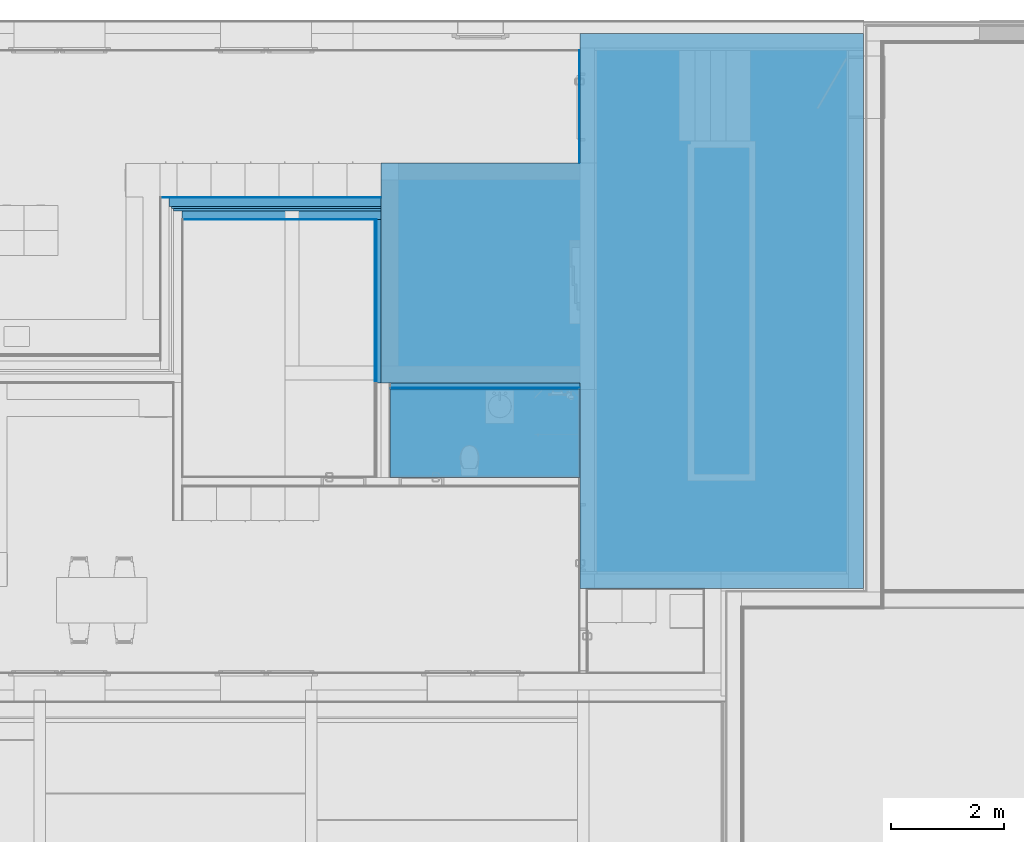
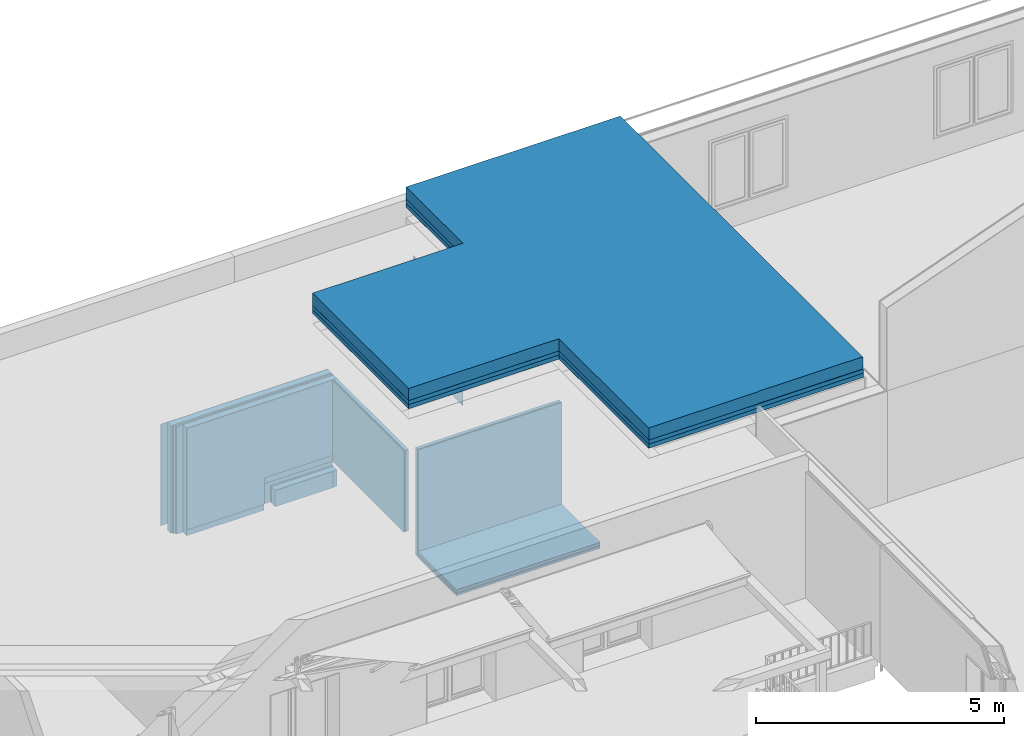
# One storey, part 13 of 36: 24 building element parts, 1 opening, 7 elements without a shape of their own.
"""IFC4 building model written with IfcOpenShell, lengths in millimetres."""

from ifc_helpers import new_model, entity, si_unit, converted_unit, derived_unit, direction, frame, origin_with_axes, place, context, subcontext, project, spatial, polygons, material, type_object, element, aggregate, save


model = new_model("IFC4")

# Units and contexts
model_context = context("Model", 3, precision=0.01, world=origin_with_axes(), true_north=direction((0.0, 1.0)))
body_context = subcontext(model_context, "Body", "Model", "MODEL_VIEW")
ifc_project = project(units=[si_unit("LENGTHUNIT", "METRE", prefix="MILLI"), si_unit("AREAUNIT", "SQUARE_METRE"), si_unit("VOLUMEUNIT", "CUBIC_METRE"), converted_unit("PLANEANGLEUNIT", "DEGREE", entity("IfcPlaneAngleMeasure", 0.0174532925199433), si_unit("PLANEANGLEUNIT", "RADIAN"), dimensions=[0, 0, 0, 0, 0, 0, 0]), converted_unit("TIMEUNIT", "Year", entity("IfcTimeMeasure", 31557600.0), si_unit("TIMEUNIT", "SECOND"), dimensions=[0, 0, 1, 0, 0, 0, 0]), si_unit("MASSUNIT", "GRAM", prefix="KILO"), si_unit("THERMODYNAMICTEMPERATUREUNIT", "DEGREE_CELSIUS"), si_unit("LUMINOUSINTENSITYUNIT", "LUMEN"), si_unit("ENERGYUNIT", "JOULE", prefix="MEGA"), derived_unit("THERMALCONDUCTANCEUNIT", [(si_unit("POWERUNIT", "WATT"), 1), (si_unit("LENGTHUNIT", "METRE"), -1), (si_unit("THERMODYNAMICTEMPERATUREUNIT", "KELVIN"), -1)]), derived_unit("SPECIFICHEATCAPACITYUNIT", [(si_unit("ENERGYUNIT", "JOULE"), 1), (si_unit("MASSUNIT", "GRAM", prefix="KILO"), -1), (si_unit("THERMODYNAMICTEMPERATUREUNIT", "KELVIN"), -1)]), derived_unit("MASSDENSITYUNIT", [(si_unit("MASSUNIT", "GRAM", prefix="KILO"), 1), (si_unit("VOLUMEUNIT", "CUBIC_METRE"), -1)])], contexts=[model_context])

# Site, building, storey
site_placement = place(None, origin_with_axes())
site = spatial("IfcSite", under=ifc_project, at=site_placement, Name="Gelände", CompositionType="ELEMENT")
building_placement = place(site_placement, origin_with_axes())
building = spatial("IfcBuilding", under=site, at=building_placement, Name="Gebäude", CompositionType="ELEMENT")
storey_placement = place(building_placement, frame((0.0, 0.0, 8700.0), z_axis=(0.0, 0.0, 1.0), x_axis=(1.0, 0.0, 0.0)))
storey = spatial("IfcBuildingStorey", under=building, at=storey_placement, Name="Attika", CompositionType="ELEMENT", Elevation=8700.0)

# Wall, building element parts
wall_type_1 = type_object("IfcWallType", Name="Trennwand Typ 03 - verputzt 200", PredefinedType="NOTDEFINED")
wall_1_placement = place(storey_placement, frame((11928.99744477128, 34837.59728131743, 0.0), z_axis=(0.0, 0.0, 1.0), x_axis=(-1.0, 0.0, 0.0)))
wall_1 = element("IfcWall", 1, at=wall_1_placement, inside=storey, type_object=wall_type_1, Name="Wand-014", PredefinedType="NOTDEFINED")
ifc_material_1 = material(Name="Dämmung Innen")
building_element_part_1_placement = place(wall_1_placement, origin_with_axes())
building_element_part_1 = element("IfcBuildingElementPart", 2, at=building_element_part_1_placement, material=ifc_material_1, Name="Dämmung Innen", PredefinedType="NOTDEFINED", context=body_context, shape_type="Tessellation", body=[
    polygons([(3700.000000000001, 149.9999999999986, 2649.999948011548), (0.0, 149.9999999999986, 2649.999948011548), (0.0, 149.999997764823, 0.0), (3700.000000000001, 149.9999998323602, 0.0), (1700.000000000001, 149.9999999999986, 649.9999999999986), (115.0000316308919, 149.9999999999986, 649.9999999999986), (115.0000316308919, 149.9999999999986, 799.999999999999), (1700.000000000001, 149.9999999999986, 799.999999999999), (3700.000000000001, 189.9999999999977, 2649.999948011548), (0.0, 189.9999999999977, 2649.999948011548), (0.0, 190.0000044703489, 649.9999999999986), (0.0, 190.0000044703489, 0.0), (3700.000000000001, 190.0000003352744, 0.0), (1700.000000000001, 190.0000044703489, 649.9999999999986), (115.0000316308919, 190.0000044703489, 649.9999999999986), (115.0000316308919, 190.0000044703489, 799.999999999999), (1700.000000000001, 190.0000044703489, 799.999999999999)], [[[1, 2, 3, 4], [5, 6, 7, 8]], [[9, 10, 2, 1]], [[3, 2, 10, 11, 12]], [[13, 4, 3, 12]], [[9, 1, 4, 13]], [[6, 5, 14, 15]], [[7, 6, 15, 16]], [[8, 7, 16, 17]], [[14, 5, 8, 17]], [[12, 11, 10, 9, 13], [14, 17, 16, 15]]], closed=True),
])
ifc_material_2 = material(Name="Kalkzementputz Aussen")
building_element_part_2_placement = place(wall_1_placement, origin_with_axes())
building_element_part_2 = element("IfcBuildingElementPart", 3, at=building_element_part_2_placement, material=ifc_material_2, Name="Kalkzementputz Aussen", PredefinedType="NOTDEFINED", context=body_context, shape_type="Tessellation", body=[
    polygons([(0.0, 0.0, 150.0000000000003), (0.0, -9.99999999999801, 150.0000000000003), (0.0, -9.99999999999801, 649.9999999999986), (0.0, -9.99999999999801, 2649.999948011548), (0.0, 0.0, 2649.999948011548), (3890.0, -9.99999999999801, 150.0000000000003), (3890.0, 0.0, 150.0000000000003), (3890.0, -9.99999999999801, 2649.999948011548), (3890.0, 0.0, 2649.999948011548)], [[[1, 2, 3, 4, 5]], [[6, 2, 1, 7]], [[2, 6, 8, 4, 3]], [[9, 5, 4, 8]], [[7, 1, 5, 9]], [[6, 7, 9, 8]]], closed=True),
])
ifc_material_3 = material(Name="MW, Backstein")
building_element_part_3_placement = place(wall_1_placement, origin_with_axes())
building_element_part_3 = element("IfcBuildingElementPart", 4, at=building_element_part_3_placement, material=ifc_material_3, Name="MW, Backstein", PredefinedType="NOTDEFINED", context=body_context, shape_type="Tessellation", body=[
    polygons([(0.0, 149.9999999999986, 2649.999948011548), (0.0, 0.0, 2649.999948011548), (3740.0, 0.0, 2649.999948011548), (3740.0, 149.9999999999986, 2649.999948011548), (0.0, -7.450609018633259e-07, 649.9999999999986), (0.0, 149.999997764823, 649.9999999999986), (0.0, 149.999997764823, 0.0), (0.0, -7.450609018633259e-07, 0.0), (3740.0, -4.842348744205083e-08, 0.0), (3740.0, 149.9999998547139, 0.0)], [[[1, 2, 3, 4]], [[5, 2, 1, 6, 7, 8]], [[2, 5, 8, 9, 3]], [[3, 9, 10, 4]], [[6, 1, 4, 10, 7]], [[9, 8, 7, 10]]], closed=True),
])
aggregate(wall_1, [building_element_part_1, building_element_part_2, building_element_part_3])

# Wall, opening, building element part
wall_type_2 = type_object("IfcWallType", Name="Innenwand Typ 10 310", PredefinedType="NOTDEFINED")
wall_2_placement = place(storey_placement, frame((15728.99744477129, 37437.59728131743, 0.0), z_axis=(0.0, 0.0, 1.0), x_axis=(0.0, -1.0, 0.0)))
wall_2 = element("IfcWall", 5, at=wall_2_placement, inside=storey, type_object=wall_type_2, Name="Wand-014", PredefinedType="NOTDEFINED")
opening_placement = place(wall_2_placement, frame((1000.0, 0.0, 0.0), z_axis=(0.0, 0.0, 1.0), x_axis=(1.0, 0.0, 0.0)))
element("IfcOpeningElement", 6, at=opening_placement, cuts=wall_2, Name="Tür-011", context=body_context, identifier="Reference", shape_type="Tessellation", body=[
    polygons([(600.0000000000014, 0.9999999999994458, 2100.0), (600.0000000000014, 0.9999999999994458, 0.0), (-600.0000000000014, 0.9999999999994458, 0.0), (-600.0000000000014, 0.9999999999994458, 2100.0), (600.0000000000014, -310.9999999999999, 2100.0), (600.0000000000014, -310.9999999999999, 0.0), (-600.0000000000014, -310.9999999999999, 0.0), (-600.0000000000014, -310.9999999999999, 2100.0)], [[[1, 2, 3, 4]], [[5, 6, 2, 1]], [[6, 7, 3, 2]], [[7, 8, 4, 3]], [[8, 5, 1, 4]], [[7, 6, 5, 8]]], closed=True),
])
building_element_part_4_placement = place(wall_2_placement, origin_with_axes())
building_element_part_4 = element("IfcBuildingElementPart", 7, at=building_element_part_4_placement, material=ifc_material_2, Name="Kalkzementputz Aussen", PredefinedType="NOTDEFINED", context=body_context, shape_type="Tessellation", body=[
    polygons([(1600.000000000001, -300.0000000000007, 150.0000000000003), (1600.000000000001, -300.0000000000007, 2100.0), (399.9999999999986, -300.0000000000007, 2100.0), (399.9999999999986, -300.0000000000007, 150.0000000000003), (0.0, -300.0000000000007, 150.0000000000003), (0.0, -300.0000113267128, 2649.999948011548), (1989.999891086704, -300.0000113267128, 2649.999948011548), (1990.000000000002, -300.0000000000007, 150.0000000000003), (1600.000000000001, -310.0000000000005, 150.0000000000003), (1600.000000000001, -310.0000000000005, 2100.0), (399.9999999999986, -310.0000000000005, 2100.0), (399.9999999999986, -310.0000000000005, 150.0000000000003), (0.0, -310.0000000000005, 150.0000000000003), (0.0, -310.0000000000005, 2649.999948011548), (1989.999891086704, -310.0000000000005, 2649.999948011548), (1990.000000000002, -310.0000000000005, 150.0000000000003)], [[[1, 2, 3, 4, 5, 6, 7, 8]], [[2, 1, 9, 10]], [[3, 2, 10, 11]], [[4, 3, 11, 12]], [[4, 12, 13, 5]], [[14, 6, 5, 13]], [[7, 6, 14, 15]], [[7, 15, 16, 8]], [[9, 1, 8, 16]], [[10, 9, 16, 15, 14, 13, 12, 11]]], closed=True),
])
aggregate(wall_2, [building_element_part_4])

# Covering, building element parts
covering_type_1 = type_object("IfcCoveringType", Name="Dacheindeckung Typ 02 - Flachdach 502", PredefinedType="NOTDEFINED")
covering_1_placement = place(storey_placement, frame((15428.99744477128, 27947.59728131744, 3650.000000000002), z_axis=(0.0, 0.0, 1.0), x_axis=(1.0, 0.0, 0.0)))
covering_1 = element("IfcCovering", 8, at=covering_1_placement, inside=storey, type_object=covering_type_1, Name="Deckennr.-073", PredefinedType="NOTDEFINED")
ifc_material_4 = material(Name="Abdichtung Bitumen")
building_element_part_5_placement = place(covering_1_placement, origin_with_axes())
building_element_part_5 = element("IfcBuildingElementPart", 9, at=building_element_part_5_placement, material=ifc_material_4, Name="Abdichtung Bitumen", PredefinedType="NOTDEFINED", context=body_context, shape_type="Tessellation", body=[
    polygons([(0.0, 0.0, 200.9999999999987), (4999.999999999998, 0.0, 200.9999999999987), (4999.999999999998, 0.0, 201.9999999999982), (0.0, 0.0, 201.9999999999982), (0.0, 3624.999999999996, 200.9999999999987), (-3500.000000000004, 3624.999999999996, 200.9999999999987), (-3500.000000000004, 7499.999999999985, 200.9999999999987), (0.0, 7499.999999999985, 200.9999999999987), (0.0, 9789.999999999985, 200.9999999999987), (4999.999999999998, 9789.999999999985, 200.9999999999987), (4999.999999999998, 9789.999999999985, 201.9999999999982), (0.0, 3624.999999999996, 201.9999999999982), (0.0, 9789.999999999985, 201.9999999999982), (0.0, 7499.999999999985, 201.9999999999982), (-3500.000000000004, 7499.999999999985, 201.9999999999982), (-3500.000000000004, 3624.999999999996, 201.9999999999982)], [[[1, 2, 3, 4]], [[2, 1, 5, 6, 7, 8, 9, 10]], [[2, 10, 11, 3]], [[12, 4, 3, 11, 13, 14, 15, 16]], [[5, 1, 4, 12]], [[6, 5, 12, 16]], [[7, 6, 16, 15]], [[8, 7, 15, 14]], [[9, 8, 14, 13]], [[10, 9, 13, 11]]], closed=True),
])
ifc_material_5 = material(Name="Dachbegrünung extensiv")
building_element_part_6_placement = place(covering_1_placement, origin_with_axes())
building_element_part_6 = element("IfcBuildingElementPart", 10, at=building_element_part_6_placement, material=ifc_material_5, Name="Dachbegrünung extensiv", PredefinedType="NOTDEFINED", context=body_context, shape_type="Tessellation", body=[
    polygons([(4990.000000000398, 9.999999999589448, 501.9999999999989), (4990.000000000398, 9789.999999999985, 501.9999999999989), (0.0, 9789.999999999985, 501.9999999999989), (0.0, 7499.999999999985, 501.9999999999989), (-3500.000000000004, 7499.999999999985, 501.9999999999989), (-3500.000000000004, 3624.999999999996, 501.9999999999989), (0.0, 3624.999999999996, 501.9999999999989), (0.0, 0.0, 501.9999999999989), (2545.999999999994, 0.0, 501.9999999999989), (2545.999999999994, 9.999998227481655, 501.9999999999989), (4990.000000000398, 9789.999999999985, 201.9999999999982), (4990.000000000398, 9.999999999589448, 201.9999999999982), (0.0, 9789.999999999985, 201.9999999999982), (0.0, 7499.999999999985, 201.9999999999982), (-3500.000000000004, 7499.999999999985, 201.9999999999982), (-3500.000000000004, 3624.999999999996, 201.9999999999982), (0.0, 3624.999999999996, 201.9999999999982), (0.0, 0.0, 201.9999999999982), (2545.999999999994, 0.0, 201.9999999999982), (2545.999999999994, 9.999999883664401, 201.9999999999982)], [[[1, 2, 3, 4, 5, 6, 7, 8, 9, 10]], [[11, 2, 1, 12]], [[2, 11, 13, 3]], [[13, 14, 4, 3]], [[14, 15, 5, 4]], [[15, 16, 6, 5]], [[16, 17, 7, 6]], [[17, 18, 8, 7]], [[19, 9, 8, 18]], [[10, 9, 19, 20]], [[12, 1, 10, 20]], [[11, 12, 20, 19, 18, 17, 16, 15, 14, 13]]], closed=True),
])
ifc_material_6 = material(Name="Aufdachdämmung")
building_element_part_7_placement = place(covering_1_placement, origin_with_axes())
building_element_part_7 = element("IfcBuildingElementPart", 11, at=building_element_part_7_placement, material=ifc_material_6, Name="Aufdachdämmung", PredefinedType="NOTDEFINED", context=body_context, shape_type="Tessellation", body=[
    polygons([(0.0, 9789.99999890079, 181.0000015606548), (5000.000000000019, 9789.999998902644, 181.0000015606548), (4999.999999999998, 9789.999999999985, 100.9999999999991), (0.0, 9789.999999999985, 100.9999999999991), (5000.000000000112, 9540.000003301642, 181.0000015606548), (0.0, 9540.000003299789, 181.0000015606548), (5000.000000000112, 9539.999928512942, 100.9999999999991), (0.0, 9540.000003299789, 100.9999999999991)], [[[1, 2, 3, 4]], [[5, 2, 1, 6]], [[5, 7, 3, 2]], [[7, 8, 4, 3]], [[6, 1, 4, 8]], [[7, 5, 6, 8]]], closed=True),
    polygons([(5000.000000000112, 9537.29987491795, 100.9999999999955), (5000.000000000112, 9537.299909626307, 183.5267569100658), (5000.000000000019, 9789.999998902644, 183.5267569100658), (4999.999999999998, 9789.999999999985, 200.9999999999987), (4999.999999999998, 0.0, 200.9999999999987), (4999.999999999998, 0.0, 100.9999999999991), (0.0, 9537.299867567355, 100.9999999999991), (0.0, 9537.299909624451, 183.5267569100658), (0.0, 9789.99999890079, 183.5267569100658), (0.0, 9789.999999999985, 200.9999999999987), (0.0, 3624.999999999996, 200.9999999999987), (0.0, 0.0, 200.9999999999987), (0.0, 7499.999999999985, 200.9999999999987), (-3500.000000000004, 7499.999999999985, 200.9999999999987), (-3500.000000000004, 3624.999999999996, 200.9999999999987), (0.0, 0.0, 100.9999999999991), (0.0, 3624.999999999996, 100.9999999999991), (-3500.000000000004, 3624.999999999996, 100.9999999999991), (-3500.000000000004, 7499.999999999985, 100.9999999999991), (0.0, 7499.999999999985, 100.9999999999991)], [[[1, 2, 3, 4, 5, 6]], [[2, 1, 7, 8]], [[9, 3, 2, 8]], [[3, 9, 10, 4]], [[11, 12, 5, 4, 10, 13, 14, 15]], [[16, 6, 5, 12]], [[7, 1, 6, 16, 17, 18, 19, 20]], [[8, 7, 20, 13, 10, 9]], [[17, 16, 12, 11]], [[20, 19, 14, 13]], [[19, 18, 15, 14]], [[18, 17, 11, 15]]], closed=True),
])
ifc_material_7 = material(Name="Dampf- / Luftdichtigkeitsschicht")
building_element_part_8_placement = place(covering_1_placement, origin_with_axes())
building_element_part_8 = element("IfcBuildingElementPart", 12, at=building_element_part_8_placement, material=ifc_material_7, Name="Dampf- / Luftdichtigkeitsschicht", PredefinedType="NOTDEFINED", context=body_context, shape_type="Tessellation", body=[
    polygons([(0.0, 0.0, 0.0), (4999.999999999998, 0.0, 0.0), (4999.999999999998, 0.0, 0.9999999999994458), (0.0, 0.0, 0.9999999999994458), (0.0, 3624.999999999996, 0.0), (-3500.000000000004, 3624.999999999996, 0.0), (-3500.000000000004, 7499.999999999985, 0.0), (0.0, 7499.999999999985, 0.0), (0.0, 9789.999999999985, 0.0), (4999.999999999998, 9789.999999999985, 0.0), (4999.999999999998, 9789.999999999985, 0.9999999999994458), (0.0, 9789.999999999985, 0.9999999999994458), (0.0, 7499.999999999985, 0.9999999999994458), (-3500.000000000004, 7499.999999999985, 0.9999999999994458), (-3500.000000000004, 3624.999999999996, 0.9999999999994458), (0.0, 3624.999999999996, 0.9999999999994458)], [[[1, 2, 3, 4]], [[1, 5, 6, 7, 8, 9, 10, 2]], [[2, 10, 11, 3]], [[4, 3, 11, 12, 13, 14, 15, 16]], [[5, 1, 4, 16]], [[6, 5, 16, 15]], [[7, 6, 15, 14]], [[8, 7, 14, 13]], [[9, 8, 13, 12]], [[10, 9, 12, 11]]], closed=True),
])
ifc_material_8 = material(Name="Gefällsdämmung")
building_element_part_9_placement = place(covering_1_placement, origin_with_axes())
building_element_part_9 = element("IfcBuildingElementPart", 13, at=building_element_part_9_placement, material=ifc_material_8, Name="Gefällsdämmung", PredefinedType="NOTDEFINED", context=body_context, shape_type="Tessellation", body=[
    polygons([(0.0, 9540.000003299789, 100.9999999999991), (5000.000000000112, 9539.999928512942, 101.0000000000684), (4999.999999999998, 9789.999999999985, 100.9999999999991), (0.0, 9789.999999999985, 100.9999999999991), (5000.000000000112, 9539.999912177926, 83.52675586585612), (0.0, 9539.999912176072, 83.52675586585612), (5000.000000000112, 9537.29986756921, 83.52675586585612), (5000.000000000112, 9537.29987491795, 100.9999999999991), (4999.999999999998, 0.0, 100.9999999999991), (4999.999999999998, 0.0, 0.9999999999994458), (4999.999999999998, 9789.999999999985, 0.9999999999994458), (0.0, 9789.999999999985, 0.9999999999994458), (0.0, 7499.999999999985, 0.9999999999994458), (0.0, 7499.999999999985, 100.9999999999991), (0.0, 9537.299867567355, 100.9999999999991), (0.0, 9537.299867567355, 83.52675586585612), (-3500.000000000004, 7499.999999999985, 100.9999999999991), (-3500.000000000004, 3624.999999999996, 100.9999999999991), (0.0, 3624.999999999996, 100.9999999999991), (0.0, 0.0, 100.9999999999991), (0.0, 0.0, 0.9999999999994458), (0.0, 3624.999999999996, 0.9999999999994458), (-3500.000000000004, 3624.999999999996, 0.9999999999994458), (-3500.000000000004, 7499.999999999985, 0.9999999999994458)], [[[1, 2, 3, 4]], [[5, 2, 1, 6]], [[7, 8, 9, 10, 11, 3, 2, 5]], [[11, 12, 4, 3]], [[6, 1, 4, 12, 13, 14, 15, 16]], [[7, 5, 6, 16]], [[15, 8, 7, 16]], [[8, 15, 14, 17, 18, 19, 20, 9]], [[21, 10, 9, 20]], [[10, 21, 22, 23, 24, 13, 12, 11]], [[13, 24, 17, 14]], [[24, 23, 18, 17]], [[23, 22, 19, 18]], [[22, 21, 20, 19]]], closed=True),
])
aggregate(covering_1, [building_element_part_5, building_element_part_6, building_element_part_7, building_element_part_8, building_element_part_9])

# Wall, building element parts
wall_type_3 = type_object("IfcWallType", Name="Vorsatzschale 01 115", PredefinedType="NOTDEFINED")
wall_3_placement = place(storey_placement, frame((11813.99744477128, 34457.59728131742, 649.9999999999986), z_axis=(0.0, 0.0, 1.0), x_axis=(0.0, -1.0, 0.0)))
wall_3 = element("IfcWall", 14, at=wall_3_placement, inside=storey, type_object=wall_type_3, Name="Wand-014", PredefinedType="NOTDEFINED")
ifc_material_9 = material(Name="Ständer Konstruktion gedämmt")
building_element_part_10_placement = place(wall_3_placement, origin_with_axes())
building_element_part_10 = element("IfcBuildingElementPart", 15, at=building_element_part_10_placement, material=ifc_material_9, Name="Ständer Konstruktion gedämmt", PredefinedType="NOTDEFINED", context=body_context, shape_type="Tessellation", body=[
    polygons([(2884.99999999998, 115.0000000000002, 0.0), (2884.99999999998, 35.00000000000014, 0.0), (0.0, 35.00000000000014, 0.0), (0.0, 115.0000000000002, 0.0), (2884.99999999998, 115.0000000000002, 1999.999948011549), (2884.99999999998, 35.00000000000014, 1999.999948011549), (0.0, 35.00000000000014, 1999.999948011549), (0.0, 115.0000000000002, 1999.999948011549)], [[[1, 2, 3, 4]], [[1, 5, 6, 2]], [[2, 6, 7, 3]], [[4, 3, 7, 8]], [[5, 1, 4, 8]], [[6, 5, 8, 7]]], closed=True),
])
ifc_material_10 = material(Name="Gipskartonplatte GKP")
building_element_part_11_placement = place(wall_3_placement, origin_with_axes())
building_element_part_11 = element("IfcBuildingElementPart", 16, at=building_element_part_11_placement, material=ifc_material_10, Name="Gipskartonplatte GKP", PredefinedType="NOTDEFINED", context=body_context, shape_type="Tessellation", body=[
    polygons([(2884.99999999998, 35.00000000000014, 0.0), (2884.99999999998, 22.49999999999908, 0.0), (0.0, 22.50000000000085, 0.0), (0.0, 35.00000000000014, 0.0), (2884.99999999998, 35.00000000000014, 1999.999948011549), (2884.99999999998, 22.49999999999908, 1999.999948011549), (0.0, 22.50000000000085, 1999.999948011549), (0.0, 35.00000000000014, 1999.999948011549)], [[[1, 2, 3, 4]], [[1, 5, 6, 2]], [[2, 6, 7, 3]], [[4, 3, 7, 8]], [[5, 1, 4, 8]], [[6, 5, 8, 7]]], closed=True),
])
building_element_part_12_placement = place(wall_3_placement, origin_with_axes())
building_element_part_12 = element("IfcBuildingElementPart", 17, at=building_element_part_12_placement, material=ifc_material_10, Name="Gipskartonplatte GKP", PredefinedType="NOTDEFINED", context=body_context, shape_type="Tessellation", body=[
    polygons([(2884.99999999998, 22.49999999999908, 0.0), (2884.99999999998, 9.999999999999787, 0.0), (0.0, 9.999999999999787, 0.0), (0.0, 22.50000000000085, 0.0), (2884.99999999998, 22.49999999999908, 1999.999948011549), (2884.99999999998, 9.999999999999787, 1999.999948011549), (0.0, 9.999999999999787, 1999.999948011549), (0.0, 22.50000000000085, 1999.999948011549)], [[[1, 2, 3, 4]], [[1, 5, 6, 2]], [[2, 6, 7, 3]], [[4, 3, 7, 8]], [[5, 1, 4, 8]], [[6, 5, 8, 7]]], closed=True),
])
building_element_part_13_placement = place(wall_3_placement, origin_with_axes())
building_element_part_13 = element("IfcBuildingElementPart", 18, at=building_element_part_13_placement, material=ifc_material_2, Name="Kalkzementputz Aussen", PredefinedType="NOTDEFINED", context=body_context, shape_type="Tessellation", body=[
    polygons([(2884.99999999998, 9.999999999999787, 0.0), (2884.99999999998, 0.0, 0.0), (9.99999999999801, 0.0, 0.0), (9.99999999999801, 9.999999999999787, 0.0), (2884.99999999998, 9.999999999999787, 1999.999948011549), (2884.99999999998, 0.0, 1999.999948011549), (9.99999999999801, 0.0, 1999.999948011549), (9.99999999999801, 9.999999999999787, 1999.999948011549)], [[[1, 2, 3, 4]], [[1, 5, 6, 2]], [[2, 6, 7, 3]], [[4, 3, 7, 8]], [[5, 1, 4, 8]], [[6, 5, 8, 7]]], closed=True),
])
aggregate(wall_3, [building_element_part_10, building_element_part_11, building_element_part_12, building_element_part_13])

wall_4_placement = place(storey_placement, frame((8418.997444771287, 34457.59728131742, 0.0), z_axis=(0.0, 0.0, 1.0), x_axis=(1.0, 0.0, 0.0)))
wall_4 = element("IfcWall", 19, at=wall_4_placement, inside=storey, type_object=wall_type_1, Name="Wand-017", PredefinedType="NOTDEFINED")
building_element_part_14_placement = place(wall_4_placement, origin_with_axes())
building_element_part_14 = element("IfcBuildingElementPart", 20, at=building_element_part_14_placement, material=ifc_material_3, Name="MW, Backstein", PredefinedType="NOTDEFINED", context=body_context, shape_type="Tessellation", body=[
    polygons([(2059.999999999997, 149.999997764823, 399.9999999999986), (3510.00001572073, 149.99999810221, 399.9999999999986), (3509.999999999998, 149.999997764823, 0.0), (2059.999999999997, 149.9999986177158, -5.198845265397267e-05), (3510.00001572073, -6.325961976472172e-07, 399.9999999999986), (2059.999999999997, -7.450609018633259e-07, 399.9999999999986), (3509.999999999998, -7.450609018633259e-07, 0.0), (2059.999999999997, -4.607585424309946e-07, -5.198845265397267e-05)], [[[1, 2, 3, 4]], [[5, 2, 1, 6]], [[2, 5, 7, 3]], [[7, 8, 4, 3]], [[6, 1, 4, 8]], [[5, 6, 8, 7]]], closed=True),
    polygons([(3510.00001572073, -5.623093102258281e-07, 649.9999999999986), (3510.00001572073, 149.9999983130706, 649.9999999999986), (3509.999999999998, 149.9999999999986, 2649.999948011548), (3509.999999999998, 0.0, 2649.999948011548), (1809.999999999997, 149.999997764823, 649.9999999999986), (1809.999999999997, -7.450609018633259e-07, 649.9999999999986), (1809.999999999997, 149.999997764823, 399.9999999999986), (1809.999999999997, 149.9999987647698, -5.198845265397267e-05), (0.0, 149.9999998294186, 0.0), (0.0, 149.9999999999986, 2649.999948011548), (0.0, 0.0, 2649.999948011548), (0.0, -5.685762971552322e-08, 0.0), (1809.999999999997, -4.117453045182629e-07, -5.198845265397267e-05), (1809.999999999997, -7.450609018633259e-07, 399.9999999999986)], [[[1, 2, 3, 4]], [[5, 2, 1, 6]], [[5, 7, 8, 9, 10, 3, 2]], [[11, 4, 3, 10]], [[6, 1, 4, 11, 12, 13, 14]], [[7, 5, 6, 14]], [[7, 14, 13, 8]], [[9, 8, 13, 12]], [[11, 10, 9, 12]]], closed=True),
])
building_element_part_15_placement = place(wall_4_placement, origin_with_axes())
building_element_part_15 = element("IfcBuildingElementPart", 21, at=building_element_part_15_placement, material=ifc_material_1, Name="Dämmung Innen", PredefinedType="NOTDEFINED", context=body_context, shape_type="Tessellation", body=[
    polygons([(1809.999999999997, 149.999997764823, 649.9999999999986), (1809.999999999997, 189.9999999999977, 649.9999999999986), (1809.999999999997, 189.9999999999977, 799.999999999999), (1809.999999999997, 149.999997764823, 799.999999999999), (1809.999999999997, 189.9999999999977, 399.9999999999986), (1809.999999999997, 149.999997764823, 399.9999999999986), (3510.00001572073, 189.9999999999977, 649.9999999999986), (3394.999968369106, 189.9999999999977, 649.9999999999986), (3394.999968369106, 189.9999999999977, 799.999999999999), (1809.999999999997, 189.9999999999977, -5.198845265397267e-05), (-150.0000000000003, 190.0000001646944, 0.0), (-150.0000000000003, 189.9999999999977, 2649.999948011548), (3509.999999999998, 189.9999999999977, 2649.999948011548), (3394.999968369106, 149.999997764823, 799.999999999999), (3394.999968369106, 149.999997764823, 649.9999999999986), (3510.00001572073, 149.9999983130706, 649.9999999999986), (3509.999999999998, 149.9999999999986, 2649.999948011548), (-150.0000000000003, 149.9999999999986, 2649.999948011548), (-150.0000000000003, 149.9999999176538, 0.0), (1809.999999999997, 149.9999987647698, -5.198845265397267e-05)], [[[1, 2, 3, 4]], [[5, 2, 1, 6]], [[7, 8, 9, 3, 2, 5, 10, 11, 12, 13]], [[3, 9, 14, 4]], [[15, 16, 17, 18, 19, 20, 6, 1, 4, 14]], [[5, 6, 20, 10]], [[8, 7, 16, 15]], [[8, 15, 14, 9]], [[11, 10, 20, 19]], [[18, 12, 11, 19]], [[18, 17, 13, 12]], [[16, 7, 13, 17]]], closed=True),
    polygons([(2059.999999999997, 189.9999999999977, 399.9999999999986), (3510.00001572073, 189.9999999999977, 399.9999999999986), (3509.999999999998, 190.0000044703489, 0.0), (2059.999999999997, 189.9999999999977, -5.198845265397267e-05), (3510.00001572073, 149.99999810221, 399.9999999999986), (2059.999999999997, 149.999997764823, 399.9999999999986), (3509.999999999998, 149.999997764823, 0.0), (2059.999999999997, 149.999998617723, -5.198845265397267e-05)], [[[1, 2, 3, 4]], [[5, 2, 1, 6]], [[2, 5, 7, 3]], [[7, 8, 4, 3]], [[6, 1, 4, 8]], [[5, 6, 8, 7]]], closed=True),
])
building_element_part_16_placement = place(wall_4_placement, origin_with_axes())
building_element_part_16 = element("IfcBuildingElementPart", 22, at=building_element_part_16_placement, material=ifc_material_2, Name="Kalkzementputz Aussen", PredefinedType="NOTDEFINED", context=body_context, shape_type="Tessellation", body=[
    polygons([(1809.999999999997, -9.99999999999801, 150.0000000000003), (1809.999999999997, 0.0, 150.0000000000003), (1809.999999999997, -7.450609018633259e-07, 399.9999999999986), (1809.999999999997, -9.99999999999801, 399.9999999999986), (9.999999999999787, 0.0, 150.0000000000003), (9.999999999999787, -9.99999999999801, 150.0000000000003), (9.999999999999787, 0.0, 2649.999948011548), (3404.999999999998, 0.0, 2649.999948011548), (3404.999999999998, -7.450609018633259e-07, 649.9999999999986), (3394.999968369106, -7.450609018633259e-07, 649.9999999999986), (3394.999968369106, -7.450609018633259e-07, 799.999999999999), (1809.999999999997, -7.450609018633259e-07, 799.999999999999), (1809.999999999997, -7.450609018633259e-07, 649.9999999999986), (1809.999999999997, -9.99999999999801, 649.9999999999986), (1809.999999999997, -9.99999999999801, 799.999999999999), (3394.999968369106, -9.99999999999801, 799.999999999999), (3394.999968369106, -9.99999999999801, 649.9999999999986), (3404.999999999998, -9.99999999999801, 649.9999999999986), (3404.999999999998, -9.99999999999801, 2649.999948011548), (9.999999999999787, -9.99999999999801, 2649.999948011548)], [[[1, 2, 3, 4]], [[5, 2, 1, 6]], [[2, 5, 7, 8, 9, 10, 11, 12, 13, 3]], [[3, 13, 14, 4]], [[6, 1, 4, 14, 15, 16, 17, 18, 19, 20]], [[5, 6, 20, 7]], [[20, 19, 8, 7]], [[18, 9, 8, 19]], [[10, 9, 18, 17]], [[10, 17, 16, 11]], [[12, 11, 16, 15]], [[14, 13, 12, 15]]], closed=True),
    polygons([(2059.999999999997, -7.450609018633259e-07, 399.9999999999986), (3404.999999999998, -7.450609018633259e-07, 399.9999999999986), (3404.999998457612, -7.244764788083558e-07, 0.0), (2059.999999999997, -4.607585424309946e-07, -5.198845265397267e-05), (3404.999999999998, -9.99999999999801, 399.9999999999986), (2059.999999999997, -9.99999999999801, 399.9999999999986), (3404.999998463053, -9.99999999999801, 0.0), (2059.999999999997, -9.99999999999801, -5.198845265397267e-05)], [[[1, 2, 3, 4]], [[5, 2, 1, 6]], [[2, 5, 7, 3]], [[7, 8, 4, 3]], [[6, 1, 4, 8]], [[5, 6, 8, 7]]], closed=True),
])
aggregate(wall_4, [building_element_part_14, building_element_part_15, building_element_part_16])

wall_5_placement = place(storey_placement, frame((12088.99744477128, 31457.59728131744, 0.0), z_axis=(0.0, 0.0, 1.0), x_axis=(1.0, 0.0, 0.0)))
wall_5 = element("IfcWall", 23, at=wall_5_placement, inside=storey, type_object=wall_type_3, Name="Wand-014", PredefinedType="NOTDEFINED")
building_element_part_17_placement = place(wall_5_placement, origin_with_axes())
building_element_part_17 = element("IfcBuildingElementPart", 24, at=building_element_part_17_placement, material=ifc_material_9, Name="Ständer Konstruktion gedämmt", PredefinedType="NOTDEFINED", context=body_context, shape_type="Tessellation", body=[
    polygons([(3340.000001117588, 115.000000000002, 0.0), (3340.000001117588, 35.00000000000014, 0.0), (0.0, 35.00000000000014, 0.0), (0.0, 114.9999999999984, 0.0), (3340.000001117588, 115.000000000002, 2649.999948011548), (3340.000001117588, 35.00000000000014, 2649.999948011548), (0.0, 35.00000000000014, 2649.999948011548), (0.0, 114.9999999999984, 2649.999948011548)], [[[1, 2, 3, 4]], [[1, 5, 6, 2]], [[2, 6, 7, 3]], [[4, 3, 7, 8]], [[5, 1, 4, 8]], [[6, 5, 8, 7]]], closed=True),
])
building_element_part_18_placement = place(wall_5_placement, origin_with_axes())
building_element_part_18 = element("IfcBuildingElementPart", 25, at=building_element_part_18_placement, material=ifc_material_10, Name="Gipskartonplatte GKP", PredefinedType="NOTDEFINED", context=body_context, shape_type="Tessellation", body=[
    polygons([(3340.000001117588, 35.00000000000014, 0.0), (3340.000001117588, 22.50000000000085, 0.0), (0.0, 22.50000000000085, 0.0), (0.0, 35.00000000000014, 0.0), (3340.000001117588, 35.00000000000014, 2649.999948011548), (3340.000001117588, 22.50000000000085, 2649.999948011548), (0.0, 22.50000000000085, 2649.999948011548), (0.0, 35.00000000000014, 2649.999948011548)], [[[1, 2, 3, 4]], [[1, 5, 6, 2]], [[2, 6, 7, 3]], [[4, 3, 7, 8]], [[5, 1, 4, 8]], [[6, 5, 8, 7]]], closed=True),
])

# Covering, building element parts
covering_type_2 = type_object("IfcCoveringType", Name="Bodenaufbau Typ 02 150", PredefinedType="NOTDEFINED")
covering_2_placement = place(storey_placement, frame((12078.99744477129, 29907.59728131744, 0.0), z_axis=(0.0, 0.0, 1.0), x_axis=(1.0, 0.0, 0.0)))
covering_2 = element("IfcCovering", 26, at=covering_2_placement, inside=storey, type_object=covering_type_2, Name="Decke-007", PredefinedType="NOTDEFINED")
ifc_material_11 = material(Name="Unterlagsboden")
building_element_part_19_placement = place(covering_2_placement, origin_with_axes())
building_element_part_19 = element("IfcBuildingElementPart", 27, at=building_element_part_19_placement, material=ifc_material_11, Name="Unterlagsboden", PredefinedType="NOTDEFINED", context=body_context, shape_type="Tessellation", body=[
    polygons([(0.0, 0.0, 80.00000000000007), (3350.0, 0.0, 80.00000000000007), (3350.0, 0.0, 134.9999999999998), (0.0, 0.0, 134.9999999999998), (0.0, 1559.999999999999, 80.00000000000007), (3350.0, 1559.999999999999, 80.00000000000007), (3350.0, 1559.999999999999, 134.9999999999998), (0.0, 1559.999999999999, 134.9999999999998)], [[[1, 2, 3, 4]], [[2, 1, 5, 6]], [[2, 6, 7, 3]], [[8, 4, 3, 7]], [[5, 1, 4, 8]], [[6, 5, 8, 7]]], closed=True),
])
ifc_material_12 = material(Name="Keramik")
building_element_part_20_placement = place(covering_2_placement, origin_with_axes())
building_element_part_20 = element("IfcBuildingElementPart", 28, at=building_element_part_20_placement, material=ifc_material_12, Name="Keramik", PredefinedType="NOTDEFINED", context=body_context, shape_type="Tessellation", body=[
    polygons([(0.0, 0.0, 134.9999999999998), (3350.0, 0.0, 134.9999999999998), (3350.0, 0.0, 150.0000000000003), (0.0, 0.0, 150.0000000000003), (0.0, 1559.999999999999, 134.9999999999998), (3350.0, 1559.999999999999, 134.9999999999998), (3350.0, 1559.999999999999, 150.0000000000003), (0.0, 1559.999999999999, 150.0000000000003)], [[[1, 2, 3, 4]], [[2, 1, 5, 6]], [[2, 6, 7, 3]], [[8, 4, 3, 7]], [[5, 1, 4, 8]], [[6, 5, 8, 7]]], closed=True),
])
ifc_material_13 = material(Name="Trittschalldämmung")
building_element_part_21_placement = place(covering_2_placement, origin_with_axes())
building_element_part_21 = element("IfcBuildingElementPart", 29, at=building_element_part_21_placement, material=ifc_material_13, Name="Trittschalldämmung", PredefinedType="NOTDEFINED", context=body_context, shape_type="Tessellation", body=[
    polygons([(0.0, 0.0, 50.00000000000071), (3350.0, 0.0, 50.00000000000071), (3350.0, 0.0, 80.00000000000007), (0.0, 0.0, 80.00000000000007), (0.0, 1559.999999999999, 50.00000000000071), (3350.0, 1559.999999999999, 50.00000000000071), (3350.0, 1559.999999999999, 80.00000000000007), (0.0, 1559.999999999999, 80.00000000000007)], [[[1, 2, 3, 4]], [[2, 1, 5, 6]], [[2, 6, 7, 3]], [[8, 4, 3, 7]], [[5, 1, 4, 8]], [[6, 5, 8, 7]]], closed=True),
])
building_element_part_22_placement = place(covering_2_placement, origin_with_axes())
building_element_part_22 = element("IfcBuildingElementPart", 30, at=building_element_part_22_placement, material=ifc_material_1, Name="Dämmung Innen", PredefinedType="NOTDEFINED", context=body_context, shape_type="Tessellation", body=[
    polygons([(0.0, 0.0, 50.00000000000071), (0.0, 0.0, 0.0), (3350.0, 0.0, 0.0), (3350.0, 0.0, 50.00000000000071), (0.0, 1559.999999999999, 50.00000000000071), (0.0, 1559.999999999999, 0.0), (3350.0, 1559.999999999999, 0.0), (3350.0, 1559.999999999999, 50.00000000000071)], [[[1, 2, 3, 4]], [[5, 6, 2, 1]], [[3, 2, 6, 7]], [[4, 3, 7, 8]], [[5, 1, 4, 8]], [[8, 7, 6, 5]]], closed=True),
])
aggregate(covering_2, [building_element_part_19, building_element_part_20, building_element_part_21, building_element_part_22])

# Building element part
building_element_part_23_placement = place(wall_5_placement, origin_with_axes())
building_element_part_23 = element("IfcBuildingElementPart", 31, at=building_element_part_23_placement, material=ifc_material_10, Name="Gipskartonplatte GKP", PredefinedType="NOTDEFINED", context=body_context, shape_type="Tessellation", body=[
    polygons([(3340.000001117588, 22.50000000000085, 0.0), (3340.000001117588, 10.00000000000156, 0.0), (0.0, 10.00000000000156, 0.0), (0.0, 22.50000000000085, 0.0), (3340.000001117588, 22.50000000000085, 2649.999948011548), (3340.000001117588, 10.00000000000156, 2649.999948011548), (0.0, 10.00000000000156, 2649.999948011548), (0.0, 22.50000000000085, 2649.999948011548)], [[[1, 2, 3, 4]], [[1, 5, 6, 2]], [[2, 6, 7, 3]], [[4, 3, 7, 8]], [[5, 1, 4, 8]], [[6, 5, 8, 7]]], closed=True),
])

building_element_part_24_placement = place(wall_5_placement, origin_with_axes())
building_element_part_24 = element("IfcBuildingElementPart", 32, at=building_element_part_24_placement, material=ifc_material_2, Name="Kalkzementputz Aussen", PredefinedType="NOTDEFINED", context=body_context, shape_type="Tessellation", body=[
    polygons([(3340.0, 0.0, 150.0000000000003), (3340.0, 10.00000000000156, 150.0000000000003), (3340.000001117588, 10.00000000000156, 2649.999948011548), (3340.000001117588, 0.0, 2649.999948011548), (0.0, 10.00000000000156, 150.0000000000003), (0.0, 0.0, 150.0000000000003), (0.0, 10.00000000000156, 2649.999948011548), (0.0, 0.0, 2649.999948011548)], [[[1, 2, 3, 4]], [[5, 2, 1, 6]], [[2, 5, 7, 3]], [[8, 4, 3, 7]], [[6, 1, 4, 8]], [[5, 6, 8, 7]]], closed=True),
])

aggregate(wall_5, [building_element_part_17, building_element_part_18, building_element_part_23, building_element_part_24])

save(model, "model.ifc")
